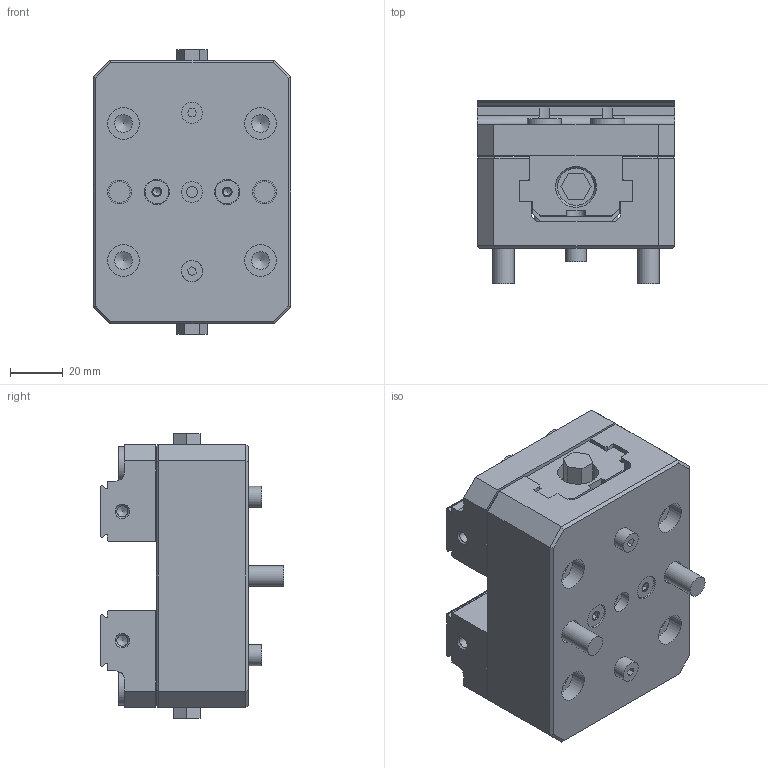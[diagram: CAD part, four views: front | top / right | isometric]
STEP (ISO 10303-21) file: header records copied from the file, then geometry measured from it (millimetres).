
FILE_DESCRIPTION (( 'STEP AP214' ), '1' );
FILE_NAME ('V75100X_WEBSITE.STEP', '2025-08-11T11:44:28', ( '' ), ( '' ), 'SwSTEP 2.0', 'SolidWorks 2025', '' );
FILE_SCHEMA (( 'AUTOMOTIVE_DESIGN' ));
Length unit declared in the file: inch
Products named in the file (15): V75100X-1_WEBSITE_FINAL; V75100X_WEBSITE; M4C_WEBSITE; V75100X-2_WEBSITE_V75100X-2R OP2; V75100X-5_WEBSITE_HARD OP2; LP8_WEBSITE_LP8; HW.76048_WEBSITE_91290A138; V75100-4_WEBSITE; HW.76252_WEBSITE_91290A442; V75100X-3_WEBSITE; V75100-6_WEBSITE; SB3V_WEBSITE_FINISHED PART; M5x10.DP_WEBSITE_93600A511; V75100X-2_WEBSITE_V75100X-2L OP2; HW.76232_WEBSITE_91290A418
Assembly tree (27 placements, depth 2):
  V75100X_WEBSITE
    V75100X-1_WEBSITE_FINAL
    V75100X-2_WEBSITE_V75100X-2L OP2
    V75100X-2_WEBSITE_V75100X-2R OP2
    V75100X-3_WEBSITE
    V75100-4_WEBSITE
    V75100X-5_WEBSITE_HARD OP2  x2
    V75100-6_WEBSITE  x2
    HW.76048_WEBSITE_91290A138
    HW.76232_WEBSITE_91290A418  x8
    M5x10.DP_WEBSITE_93600A511  x2
    SB3V_WEBSITE_FINISHED PART  x2
    M4C_WEBSITE
    LP8_WEBSITE_LP8  x2
    HW.76252_WEBSITE_91290A442  x2
Bounding box: 75 x 69.43 x 108 mm (x, y, z)
Volume: 308867.7 mm3; surface area: 103392.6 mm2
Topology: 27 solids, 27 shells, 715 faces, 1672 edges, 1067 vertices
Faces by surface type: plane 425, cylinder 156, cone 134
Full cylindrical faces by diameter (mm): 3 x2, 3.124 x1, 3.3 x2, 3.454 x1, 4 x3, 4.2 x7, 4.5 x1, 4.915 x4, 4.999 x2, 5 x6, 5.013 x2, 5.017 x2, 5.052 x2, 5.969 x1, 6.35 x1, 6.8 x12, 7 x1, 7.4 x1, 8 x12, 8.014 x3, 8.5 x8, 9 x4, 9.5 x2, 12.009 x4, 12.5 x2, 13 x10, 13.5 x8, 13.9 x2, 14 x2, 14.605 x2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
Entity records: 15618 total; most frequent: CARTESIAN_POINT 2299, DIRECTION 2034, ORIENTED_EDGE 1734, EDGE_CURVE 867, AXIS2_PLACEMENT_3D 742, EDGE_LOOP 644, VERTEX_POINT 629, VECTOR 550
